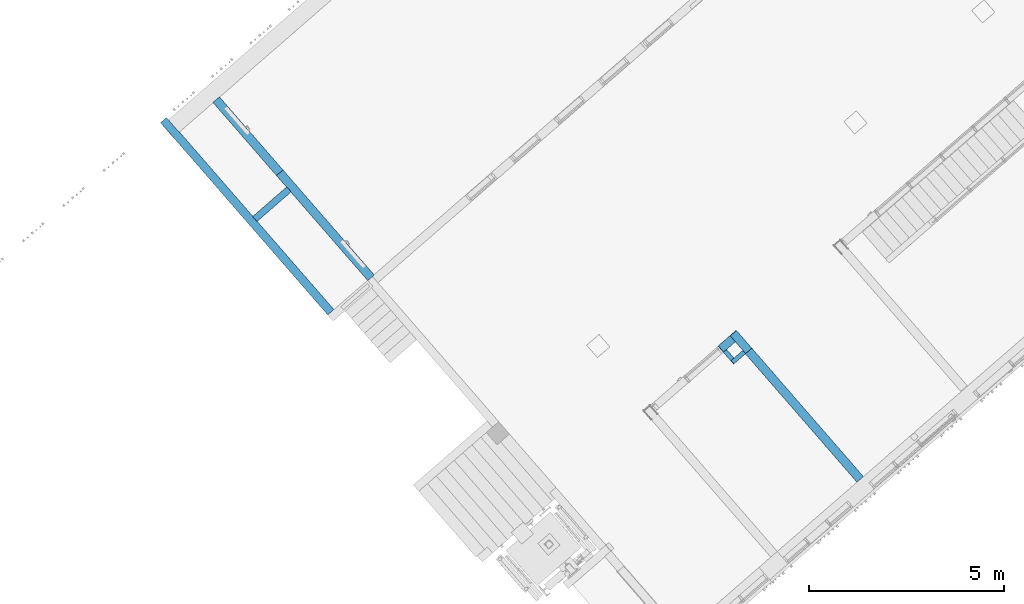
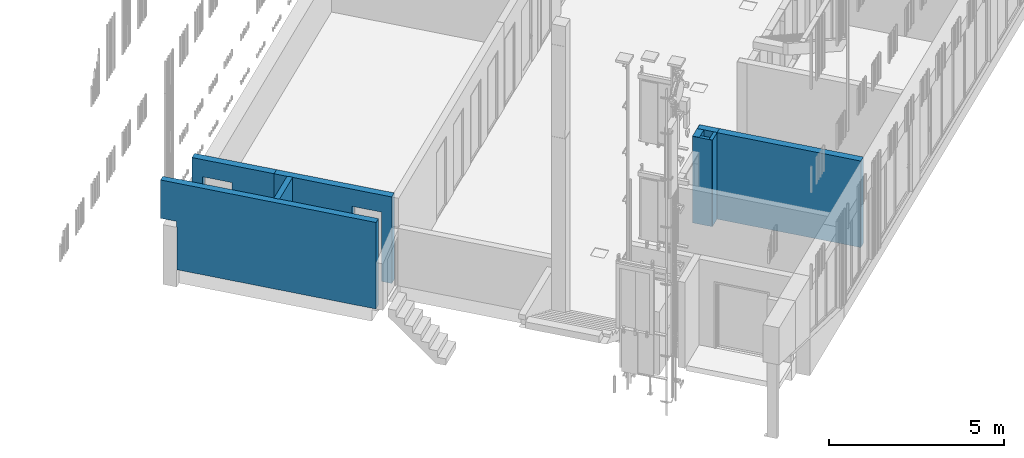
# One storey, part 44 of 124: 9 walls.
"""IFC2X3 building model written with IfcOpenShell, lengths in millimetres."""

from ifc_helpers import new_model, entity, si_unit, converted_unit, derived_unit, money_unit, direction, frame, origin_with_axes, place, context, subcontext, project, spatial, faceted_brep, material, material_list, type_object, element, save


model = new_model("IFC2X3")

# Units and contexts
model_context = context("Model", 3, precision=1e-05, world=origin_with_axes(), true_north=direction((0.0, 1.0)))
body_context = subcontext(model_context, "Body", "Model", "MODEL_VIEW")
ifc_project = project(units=[si_unit("LENGTHUNIT", "METRE", prefix="MILLI"), si_unit("AREAUNIT", "SQUARE_METRE"), si_unit("VOLUMEUNIT", "CUBIC_METRE"), converted_unit("PLANEANGLEUNIT", "DEGREE", entity("IfcPlaneAngleMeasure", 0.0174532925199), si_unit("PLANEANGLEUNIT", "RADIAN"), dimensions=[0, 0, 0, 0, 0, 0, 0]), si_unit("SOLIDANGLEUNIT", "STERADIAN"), money_unit("EUR"), converted_unit("TIMEUNIT", "Year", entity("IfcTimeMeasure", 31556926.0), si_unit("TIMEUNIT", "SECOND"), dimensions=[0, 0, 1, 0, 0, 0, 0]), si_unit("MASSUNIT", "GRAM", prefix="KILO"), si_unit("THERMODYNAMICTEMPERATUREUNIT", "DEGREE_CELSIUS"), si_unit("LUMINOUSINTENSITYUNIT", "LUMEN"), si_unit("ENERGYUNIT", "JOULE", prefix="MEGA"), derived_unit("THERMALCONDUCTANCEUNIT", [(si_unit("POWERUNIT", "WATT"), 1), (si_unit("LENGTHUNIT", "METRE"), -1), (si_unit("THERMODYNAMICTEMPERATUREUNIT", "KELVIN"), -1)]), derived_unit("SPECIFICHEATCAPACITYUNIT", [(si_unit("ENERGYUNIT", "JOULE"), 1), (si_unit("MASSUNIT", "GRAM", prefix="KILO"), -1), (si_unit("THERMODYNAMICTEMPERATUREUNIT", "KELVIN"), -1)]), derived_unit("MASSDENSITYUNIT", [(si_unit("MASSUNIT", "GRAM", prefix="KILO"), 1), (si_unit("VOLUMEUNIT", "CUBIC_METRE"), -1)])], contexts=[model_context])

# Site, building, storey
site_placement = place(None, origin_with_axes())
site = spatial("IfcSite", under=ifc_project, at=site_placement, Name="Site", CompositionType="ELEMENT")
building_placement = place(site_placement, origin_with_axes())
building = spatial("IfcBuilding", under=site, at=building_placement, Name="Building", CompositionType="ELEMENT")
storey_placement = place(building_placement, frame((0.0, 0.0, -1615.0), z_axis=(0.0, 0.0, 1.0), x_axis=(1.0, 0.0, 0.0)))
storey = spatial("IfcBuildingStorey", under=building, at=storey_placement, Name="0  korrus", CompositionType="ELEMENT", Elevation=-1615.0)

# Walls
ifc_material_1 = material(Name="Krohv - Lubjakivi")
ifc_material_2 = material(Name="Müüriplokk - Konstuktsioon")
ifc_material_list_1 = material_list([ifc_material_1, ifc_material_1, ifc_material_2, ifc_material_1])
wall_type_1 = type_object("IfcWallType", Name="SS-01", PredefinedType="NOTDEFINED")
wall_1_placement = place(storey_placement, frame((142477.609812, 85208.8273028, -20.0), z_axis=(0.0, 0.0, 1.0), x_axis=(-0.656059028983, 0.754709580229, 0.0)))
element("IfcWall", 1, at=wall_1_placement, inside=storey, type_object=wall_type_1, material=ifc_material_list_1, Name="SS-01", context=body_context, shape_type="Brep", body=[
    faceted_brep([(1209.9999997, -9.99999999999, 2420.0), (1209.9999997, -9.99999999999, 20.0), (1209.9999997, -9.99999999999, 0.0), (3009.99998262, -10.0, 0.0), (3009.99998262, -9.99999999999, 3020.0), (0.0, -9.99999999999, 3020.0), (0.0, -9.99999999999, 0.0), (309.999999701, -10.0, 0.0), (309.999999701, -10.0, 20.0), (309.999999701, -10.0, 2420.0), (1209.9999997, 0.0, 2420.0), (1209.9999997, 0.0, 20.0), (1209.9999997, 0.0, 0.0), (3009.9999997, 0.0, 0.0), (3009.9999997, 0.0, 3020.0), (0.0, 0.0, 3020.0), (0.0, 0.0, 0.0), (309.999999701, 0.0, 0.0), (309.999999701, 0.0, 20.0), (309.999999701, 0.0, 2420.0)], [[[0, 1, 2, 3, 4, 5, 6, 7, 8, 9]], [[1, 0, 10, 11]], [[1, 11, 12, 2]], [[12, 13, 3, 2]], [[4, 3, 13, 14]], [[14, 15, 5, 4]], [[5, 15, 16, 6]], [[7, 6, 16, 17]], [[18, 8, 7, 17]], [[9, 8, 18, 19]], [[0, 9, 19, 10]], [[19, 18, 17, 16, 15, 14, 13, 12, 11, 10]]]),
    faceted_brep([(3559.99617326, -9.99999999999, 3020.0), (3559.99617326, 0.0, 3020.0), (3159.9999997, 0.0, 3020.0), (3159.99998262, -9.99999999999, 3020.0), (3559.99617326, -9.99999999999, 0.0), (3559.99617326, 0.0, 0.0), (3159.9999997, 0.0, 0.0), (3159.99998262, -9.99999999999, 0.0)], [[[0, 1, 2, 3]], [[0, 4, 5, 1]], [[1, 5, 6, 2]], [[3, 2, 6, 7]], [[4, 0, 3, 7]], [[5, 4, 7, 6]]]),
    faceted_brep([(1209.9999997, -210.0, 2420.0), (1209.9999997, -210.0, 20.0), (1209.9999997, -210.0, 0.0), (3559.99617326, -210.0, 0.0), (3559.99617326, -210.0, 3020.0), (0.0, -210.0, 3020.0), (0.0, -210.0, 0.0), (309.999999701, -210.0, 0.0), (309.999999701, -210.0, 20.0), (309.999999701, -210.0, 2420.0), (1209.9999997, -10.0, 2420.0), (1209.9999997, -9.99999999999, 20.0), (1209.9999997, -9.99999999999, 0.0), (3559.99617326, -9.99999999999, 0.0), (3559.99617326, -9.99999999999, 3020.0), (0.0, -9.99999999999, 3020.0), (0.0, -9.99999999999, 0.0), (309.999999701, -10.0, 0.0), (309.999999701, -10.0, 20.0), (309.999999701, -10.0, 2420.0)], [[[0, 1, 2, 3, 4, 5, 6, 7, 8, 9]], [[1, 0, 10, 11]], [[1, 11, 12, 2]], [[12, 13, 3, 2]], [[4, 3, 13, 14]], [[4, 14, 15, 5]], [[5, 15, 16, 6]], [[7, 6, 16, 17]], [[18, 8, 7, 17]], [[9, 8, 18, 19]], [[0, 9, 19, 10]], [[19, 18, 17, 16, 15, 14, 13, 12, 11, 10]]]),
    faceted_brep([(1209.9999997, -220.0, 2420.0), (1209.9999997, -220.0, 20.0), (1209.9999997, -220.0, 0.0), (3559.99617326, -220.0, 0.0), (3559.99617326, -220.0, 3020.0), (0.0, -220.0, 3020.0), (0.0, -220.0, 0.0), (309.999999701, -220.0, 0.0), (309.999999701, -220.0, 20.0), (309.999999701, -220.0, 2420.0), (1209.9999997, -210.0, 2420.0), (1209.9999997, -210.0, 20.0), (1209.9999997, -210.0, 0.0), (3559.99617326, -210.0, 0.0), (3559.99617326, -210.0, 3020.0), (0.0, -210.0, 3020.0), (0.0, -210.0, 0.0), (309.999999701, -210.0, 0.0), (309.999999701, -210.0, 20.0), (309.999999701, -210.0, 2420.0)], [[[0, 1, 2, 3, 4, 5, 6, 7, 8, 9]], [[1, 0, 10, 11]], [[1, 11, 12, 2]], [[12, 13, 3, 2]], [[4, 3, 13, 14]], [[4, 14, 15, 5]], [[5, 15, 16, 6]], [[7, 6, 16, 17]], [[18, 8, 7, 17]], [[9, 8, 18, 19]], [[0, 9, 19, 10]], [[19, 18, 17, 16, 15, 14, 13, 12, 11, 10]]]),
])
ifc_material_list_2 = material_list([ifc_material_1, ifc_material_2, ifc_material_1])
wall_2_placement = place(storey_placement, frame((152301.647367, 83479.8745153, -20.0), z_axis=(0.0, 0.0, 1.0), x_axis=(0.656059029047, -0.754709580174, 0.0)))
element("IfcWall", 2, at=wall_2_placement, inside=storey, type_object=wall_type_1, material=ifc_material_list_2, Name="SS-01", context=body_context, shape_type="Brep", body=[
    faceted_brep([(4350.00000011, -9.99999999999, 3020.0), (4350.00000011, 0.0, 3020.0), (0.0, 0.0, 3020.0), (0.0, -9.99999999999, 3020.0), (4350.00000011, -9.99999999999, 0.0), (4350.00000011, 0.0, 0.0), (0.0, 0.0, 0.0), (0.0, -9.99999999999, 0.0)], [[[0, 1, 2, 3]], [[0, 4, 5, 1]], [[1, 5, 6, 2]], [[3, 2, 6, 7]], [[4, 0, 3, 7]], [[5, 4, 7, 6]]]),
    faceted_brep([(4350.00000011, -210.0, 3020.0), (4350.00000011, -9.99999999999, 3020.0), (0.0, -9.99999999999, 3020.0), (0.0, -210.0, 3020.0), (4350.00000011, -210.0, 0.0), (4350.00000011, -9.99999999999, 0.0), (0.0, -9.99999999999, 0.0), (0.0, -210.0, 0.0)], [[[0, 1, 2, 3]], [[0, 4, 5, 1]], [[1, 5, 6, 2]], [[3, 2, 6, 7]], [[4, 0, 3, 7]], [[5, 4, 7, 6]]]),
    faceted_brep([(4350.00000011, -220.0, 3020.0), (4350.00000011, -210.0, 3020.0), (0.0, -210.0, 3020.0), (0.0, -220.0, 3020.0), (4350.00000011, -220.0, 0.0), (4350.00000011, -210.0, 0.0), (0.0, -210.0, 0.0), (0.0, -220.0, 0.0)], [[[0, 1, 2, 3]], [[0, 4, 5, 1]], [[1, 5, 6, 2]], [[3, 2, 6, 7]], [[4, 0, 3, 7]], [[5, 4, 7, 6]]]),
])
wall_3_placement = place(storey_placement, frame((140142.042179, 87895.5905204, -20.0), z_axis=(0.0, 0.0, 1.0), x_axis=(-0.656059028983, 0.754709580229, 0.0)))
element("IfcWall", 3, at=wall_3_placement, inside=storey, type_object=wall_type_1, material=ifc_material_list_2, Name="SS-01", context=body_context, shape_type="Brep", body=[
    faceted_brep([(2170.00382584, -10.0, 2420.0), (2170.00382584, -10.0, 20.0), (2170.00382584, -10.0000064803, 0.0), (2470.00382584, -10.0000073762, 0.0), (2470.00382585, -9.99999999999, 3020.0), (0.0, -10.0, 3020.0), (0.0, -10.0, 0.0), (1270.00382584, -10.0000037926, 0.0), (1270.00382584, -10.0, 20.0), (1270.00382584, -9.99999999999, 2420.0), (2170.00382584, 0.0, 2420.0), (2170.00382584, 0.0, 20.0), (2170.00382584, -8.64034177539e-06, 0.0), (2470.00382584, -9.83484937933e-06, 0.0), (2470.00382617, -9.83484937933e-06, 1485.0), (2470.00382585, 0.0, 3020.0), (0.0, 0.0, 3020.0), (0.0, 0.0, 0.0), (1270.00382584, -5.05681896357e-06, 0.0), (1270.00382584, 0.0, 20.0), (1270.00382584, 0.0, 2420.0)], [[[0, 1, 2, 3, 4, 5, 6, 7, 8, 9]], [[1, 0, 10, 11]], [[1, 11, 12, 2]], [[12, 13, 3, 2]], [[4, 3, 13, 14, 15]], [[4, 15, 16, 5]], [[16, 17, 6, 5]], [[7, 6, 17, 18]], [[19, 8, 7, 18]], [[9, 8, 19, 20]], [[0, 9, 20, 10]], [[20, 19, 18, 17, 16, 15, 14, 13, 12, 11, 10]]]),
    faceted_brep([(2170.00382584, -210.0, 2420.0), (2170.00382584, -210.0, 20.0), (2170.00382584, -210.00000216, 0.0), (2470.00382584, -210.000002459, 0.0), (2470.00382584, -210.000002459, 1485.0), (2480.00382619, -210.000001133, 1485.0), (2480.00382831, -210.000000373, 3019.99999899), (0.0, -210.0, 3020.0), (0.0, -210.0, 0.0), (1270.00382584, -210.000001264, 0.0), (1270.00382584, -210.0, 20.0), (1270.00382584, -210.0, 2420.0), (2170.00382584, -10.0000058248, 2420.0), (2170.00382584, -10.0000083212, 20.0), (2170.00382584, -10.0000064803, 0.0), (2470.00382584, -10.0000073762, 0.0), (2470.00382584, -10.0000073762, 1485.0), (2480.00382617, -10.0000033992, 1485.0), (2480.00382829, -10.0000011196, 3019.99999899), (0.0, -10.0, 3020.0), (0.0, -10.0, 0.0), (1270.00382584, -10.0000037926, 0.0), (1270.00382584, -10.0000065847, 20.0), (1270.00382584, -10.0000040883, 2420.0)], [[[0, 1, 2, 3, 4, 5, 6, 7, 8, 9, 10, 11]], [[1, 0, 12, 13]], [[1, 13, 14, 2]], [[14, 15, 3, 2]], [[15, 16, 4, 3]], [[16, 17, 5, 4]], [[17, 18, 6, 5]], [[6, 18, 19, 7]], [[19, 20, 8, 7]], [[9, 8, 20, 21]], [[22, 10, 9, 21]], [[11, 10, 22, 23]], [[0, 11, 23, 12]], [[23, 22, 21, 20, 19, 18, 17, 16, 15, 14, 13, 12]]]),
    faceted_brep([(2170.00382584, -220.0, 2420.0), (2170.00382584, -220.0, 20.0), (2170.00382584, -220.0, 0.0), (2470.00382584, -220.0, 0.0), (2470.00382619, -220.0, 1485.0), (2470.00382587, -220.0, 3020.0), (0.0, -220.0, 3020.0), (0.0, -220.0, 0.0), (1270.00382584, -220.0, 0.0), (1270.00382584, -220.0, 20.0), (1270.00382584, -220.0, 2420.0), (2170.00382584, -210.0, 2420.0), (2170.00382584, -210.0, 20.0), (2170.00382584, -210.00000216, 0.0), (2470.00382584, -210.000002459, 0.0), (2470.00382587, -210.0, 3020.0), (0.0, -210.0, 3020.0), (0.0, -210.0, 0.0), (1270.00382584, -210.000001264, 0.0), (1270.00382584, -210.0, 20.0), (1270.00382584, -210.0, 2420.0)], [[[0, 1, 2, 3, 4, 5, 6, 7, 8, 9, 10]], [[1, 0, 11, 12]], [[1, 12, 13, 2]], [[13, 14, 3, 2]], [[4, 3, 14, 15, 5]], [[5, 15, 16, 6]], [[16, 17, 7, 6]], [[8, 7, 17, 18]], [[19, 9, 8, 18]], [[10, 9, 19, 20]], [[0, 10, 20, 11]], [[20, 19, 18, 17, 16, 15, 14, 13, 12, 11]]]),
])
ifc_material_list_3 = material_list([ifc_material_1, ifc_material_2])
wall_type_2 = type_object("IfcWallType", Name="SS-02", PredefinedType="NOTDEFINED")
wall_4_placement = place(storey_placement, frame((151880.735052, 83643.9867257, -20.0), z_axis=(0.0, 0.0, 1.0), x_axis=(0.656057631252, -0.754710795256, 0.0)))
element("IfcWall", 4, at=wall_4_placement, inside=storey, type_object=wall_type_2, material=ifc_material_list_3, Name="SS-02", context=body_context, shape_type="Brep", body=[
    faceted_brep([(399.999993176, 210.0, 0.0), (399.999993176, 200.0, 0.0), (-210.0, 200.0, 0.0), (-210.0, 210.0, 0.0), (399.999993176, 210.0, 3020.0), (399.999993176, 200.0, 3020.0), (-210.0, 200.0, 3020.0), (-210.0, 210.0, 3020.0)], [[[0, 1, 2, 3]], [[0, 4, 5, 1]], [[1, 5, 6, 2]], [[3, 2, 6, 7]], [[4, 0, 3, 7]], [[5, 4, 7, 6]]]),
    faceted_brep([(399.999993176, 200.0, 0.0), (399.999993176, 0.0, 0.0), (-200.0, 0.0, 0.0), (-200.0, 200.0, 0.0), (399.999993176, 200.0, 3020.0), (399.999993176, 0.0, 3020.0), (-200.0, 0.0, 3020.0), (-200.0, 200.0, 3020.0)], [[[0, 1, 2, 3]], [[0, 4, 5, 1]], [[1, 5, 6, 2]], [[3, 2, 6, 7]], [[4, 0, 3, 7]], [[5, 4, 7, 6]]]),
])
ifc_material_list_4 = material_list([ifc_material_2, ifc_material_1])
wall_5_placement = place(storey_placement, frame((151880.735052, 83643.9867257, -20.0), z_axis=(0.0, 0.0, 1.0), x_axis=(-0.754710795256, -0.656057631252, 0.0)))
element("IfcWall", 5, at=wall_5_placement, inside=storey, type_object=wall_type_2, material=ifc_material_list_4, Name="SS-02", context=body_context, shape_type="Brep", body=[
    faceted_brep([(399.999828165, 0.0, 3020.0), (0.0, 0.0, 3020.0), (0.0, -200.0, 3020.0), (399.999581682, -200.0, 3020.0), (399.999828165, 0.0, 0.0), (0.0, 0.0, 0.0), (0.0, -200.0, 0.0), (399.999581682, -200.0, 0.0)], [[[0, 1, 2, 3]], [[4, 5, 1, 0]], [[2, 1, 5, 6]], [[3, 2, 6, 7]], [[3, 7, 4, 0]], [[7, 6, 5, 4]]]),
    faceted_brep([(399.999581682, -200.0, 3020.0), (-200.0, -200.0, 3020.0), (-200.0, -210.0, 3020.0), (399.999569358, -210.0, 3020.0), (399.999581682, -200.0, 0.0), (-200.0, -200.0, 0.0), (-200.0, -210.0, 0.0), (399.999569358, -210.0, 0.0)], [[[0, 1, 2, 3]], [[4, 5, 1, 0]], [[2, 1, 5, 6]], [[3, 2, 6, 7]], [[3, 7, 4, 0]], [[7, 6, 5, 4]]]),
])
ifc_material_3 = material(Name="Raudbetoon - Konstruktsioon")
ifc_material_list_5 = material_list([ifc_material_3, ifc_material_1, ifc_material_1])
wall_type_3 = type_object("IfcWallType", Name="SS-11", PredefinedType="NOTDEFINED")
wall_6_placement = place(storey_placement, frame((141452.191288, 84330.6947093, -20.0), z_axis=(0.0, 0.0, 1.0), x_axis=(-0.65605903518, 0.754709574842, 0.0)))
element("IfcWall", 6, at=wall_6_placement, inside=storey, type_object=wall_type_3, material=ifc_material_list_5, Name="SS-11", context=body_context, shape_type="Brep", body=[
    faceted_brep([(6029.99999768, -200.000002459, 1685.00000054), (6516.99691922, -200.0, 1685.00000054), (6516.99999735, -200.0, 3019.99999879), (0.0, -200.0, 3020.0), (0.0, -200.0, 0.0), (6019.99999839, -200.000002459, 0.0), (6019.99999839, -200.000002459, 1485.0), (6029.99999768, -200.000002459, 1485.0), (6029.99999931, -7.37614413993e-06, 1685.00000054), (6516.99735731, 0.0, 1685.00000054), (6516.99999897, 0.0, 3019.99999879), (0.0, 0.0, 3020.0), (0.0, 0.0, 0.0), (6019.99999839, -7.37614413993e-06, 0.0), (6019.99999839, -7.37614413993e-06, 1485.0), (6029.99999931, -7.37614413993e-06, 1485.0)], [[[0, 1, 2, 3, 4, 5, 6, 7]], [[1, 0, 8, 9]], [[1, 9, 10, 2]], [[3, 2, 10, 11]], [[12, 4, 3, 11]], [[12, 13, 5, 4]], [[14, 6, 5, 13]], [[15, 7, 6, 14]], [[8, 0, 7, 15]], [[8, 15, 14, 13, 12, 11, 10, 9]]]),
    faceted_brep([(6019.99999727, -210.0, 3020.0), (3150.00194545, -210.0, 3019.99999942), (3150.00194545, -210.0, 0.0), (6019.99999839, -210.0, 0.0), (6019.9999976, -210.0, 1485.0), (6019.99999735, -200.0, 3020.0), (3150.00196261, -200.0, 3019.99999942), (3150.00196261, -200.000001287, 0.0), (6019.99999839, -200.000002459, 0.0), (6019.99999768, -200.000002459, 1485.0)], [[[0, 1, 2, 3, 4]], [[0, 5, 6, 1]], [[7, 2, 1, 6]], [[2, 7, 8, 3]], [[5, 0, 4, 3, 8, 9]], [[5, 9, 8, 7, 6]]]),
    faceted_brep([(3000.00194545, -210.0, 3019.99999944), (0.0, -210.0, 3020.0), (0.0, -210.0, 0.0), (3000.00194545, -210.0, 0.0), (3000.00196261, -200.0, 3019.99999944), (0.0, -200.0, 3020.0), (0.0, -200.0, 0.0), (3000.00196261, -200.000001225, 0.0)], [[[0, 1, 2, 3]], [[4, 5, 1, 0]], [[2, 1, 5, 6]], [[3, 2, 6, 7]], [[0, 3, 7, 4]], [[7, 6, 5, 4]]]),
])
wall_type_4 = type_object("IfcWallType", Name="SS-04", PredefinedType="NOTDEFINED")
wall_7_placement = place(storey_placement, frame((140509.432725, 87472.9560433, -20.0), z_axis=(0.0, 0.0, 1.0), x_axis=(-0.754710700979, -0.656057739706, 0.0)))
element("IfcWall", 7, at=wall_7_placement, inside=storey, type_object=wall_type_4, material=ifc_material_list_2, Name="SS-04", context=body_context, shape_type="Brep", body=[
    faceted_brep([(1140.00002486, 0.0, 3020.0), (1.98951966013e-10, 0.0, 3020.0), (1.70832663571e-05, -10.0, 3020.0), (1140.00004202, -9.99999999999, 3020.0), (1140.00002486, 0.0, 0.0), (1.98951966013e-10, 0.0, 0.0), (1.70832663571e-05, -10.0, 0.0), (1140.00004202, -9.99999999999, 0.0)], [[[0, 1, 2, 3]], [[4, 5, 1, 0]], [[2, 1, 5, 6]], [[3, 2, 6, 7]], [[3, 7, 4, 0]], [[7, 6, 5, 4]]]),
    faceted_brep([(1150.00004202, -9.99999999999, 3020.0), (-9.99998291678, -10.0, 3020.0), (-9.99972667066, -160.0, 3020.0), (1150.0002995, -160.0, 3020.0), (1150.00004202, -9.99999999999, 0.0), (-9.99998291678, -10.0, 0.0), (-9.99972667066, -160.0, 0.0), (1150.0002995, -160.0, 0.0)], [[[0, 1, 2, 3]], [[4, 5, 1, 0]], [[2, 1, 5, 6]], [[3, 2, 6, 7]], [[3, 7, 4, 0]], [[7, 6, 5, 4]]]),
    faceted_brep([(1140.0002995, -160.0, 3020.0), (0.000273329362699, -160.0, 3020.0), (0.000290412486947, -170.0, 3020.0), (1140.00031666, -170.0, 3020.0), (1140.0002995, -160.0, 0.0), (0.000273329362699, -160.0, 0.0), (0.000290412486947, -170.0, 0.0), (1140.00031666, -170.0, 0.0)], [[[0, 1, 2, 3]], [[4, 5, 1, 0]], [[2, 1, 5, 6]], [[3, 2, 6, 7]], [[3, 7, 4, 0]], [[7, 6, 5, 4]]]),
])
wall_type_5 = type_object("IfcWallType", Name="SS-08", PredefinedType="NOTDEFINED")
wall_8_placement = place(storey_placement, frame((152070.991607, 83425.1204666, -20.0), z_axis=(0.0, 0.0, 1.0), x_axis=(-0.754709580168, -0.656059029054, 0.0)))
element("IfcWall", 8, at=wall_8_placement, inside=storey, type_object=wall_type_5, material=ifc_material_list_3, Name="SS-08", context=body_context, shape_type="Brep", body=[
    faceted_brep([(410.000290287, 100.0, 0.0), (-1.8521035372e-05, 100.0, 0.0), (0.0, 110.0, 0.0), (410.000321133, 110.0, 0.0), (410.000290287, 100.0, 3020.0), (-1.8521035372e-05, 100.0, 3020.0), (0.0, 110.0, 3020.0), (410.000321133, 110.0, 3020.0)], [[[0, 1, 2, 3]], [[4, 5, 1, 0]], [[2, 1, 5, 6]], [[3, 2, 6, 7]], [[3, 7, 4, 0]], [[7, 6, 5, 4]]]),
    faceted_brep([(399.999981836, 0.0, 0.0), (-0.000203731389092, 0.0, 0.0), (-1.8521035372e-05, 100.0, 0.0), (400.000290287, 100.0, 0.0), (399.999981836, 0.0, 3020.0), (-0.000203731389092, 0.0, 3020.0), (-1.8521035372e-05, 100.0, 3020.0), (400.000290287, 100.0, 3020.0)], [[[0, 1, 2, 3]], [[4, 5, 1, 0]], [[2, 1, 5, 6]], [[3, 2, 6, 7]], [[3, 7, 4, 0]], [[7, 6, 5, 4]]]),
])
wall_9_placement = place(storey_placement, frame((151844.578746, 83228.3027698, -20.0), z_axis=(0.0, 0.0, 1.0), x_axis=(-0.656056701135, 0.75471160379, 0.0)))
element("IfcWall", 9, at=wall_9_placement, inside=storey, type_object=wall_type_5, material=ifc_material_list_3, Name="SS-08", context=body_context, shape_type="Brep", body=[
    faceted_brep([(500.000425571, 100.0, 0.0), (-100.000308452, 100.0, 0.0), (-100.000339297, 110.0, 0.0), (500.000413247, 110.0, 0.0), (500.000425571, 100.0, 3020.0), (-100.000308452, 100.0, 3020.0), (-100.000339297, 110.0, 3020.0), (500.000413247, 110.0, 3020.0)], [[[0, 1, 2, 3]], [[4, 5, 1, 0]], [[2, 1, 5, 6]], [[3, 2, 6, 7]], [[3, 7, 4, 0]], [[7, 6, 5, 4]]]),
    faceted_brep([(290.000548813, 0.0, 0.0), (0.0, 0.0, 0.0), (-0.000308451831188, 100.0, 0.0), (290.000425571, 100.0, 0.0), (290.000548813, 0.0, 3020.0), (0.0, 0.0, 3020.0), (-0.000308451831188, 100.0, 3020.0), (290.000425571, 100.0, 3020.0)], [[[0, 1, 2, 3]], [[4, 5, 1, 0]], [[2, 1, 5, 6]], [[3, 2, 6, 7]], [[3, 7, 4, 0]], [[7, 6, 5, 4]]]),
])

save(model, "model.ifc")
